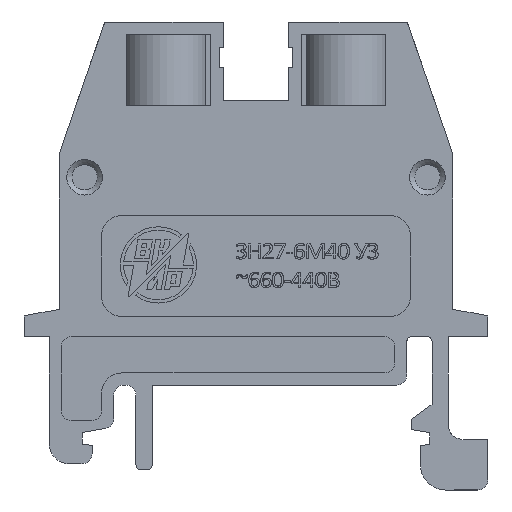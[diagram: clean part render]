
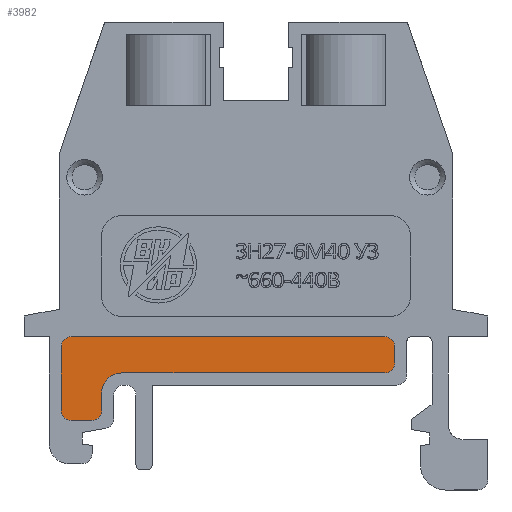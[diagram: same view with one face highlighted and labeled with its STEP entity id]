
A CAD part, left-side view. The second image highlights one B-rep face of the part: STEP entity #3982.
In plain terms, the highlighted planar face has unit normal (-1, 0, 0).
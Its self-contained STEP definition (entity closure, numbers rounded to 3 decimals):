
#3982=ADVANCED_FACE('',(#32790),#32792,.T.);
#32790=FACE_BOUND('',#32791,.T.);
#32791=EDGE_LOOP('',(#56172,#56173,#56174,#56175,#56176,#56177,#56178,#56179,#56180,
#56181,#56182,#56183));
#32792=PLANE('',#32793);
#32793=AXIS2_PLACEMENT_3D('',#32794,#32795,#32796);
#32794=CARTESIAN_POINT('',(3.,0.,0.));
#32795=DIRECTION('',(-1.,0.,0.));
#32796=DIRECTION('',(0.,-1.,0.));
#56172=ORIENTED_EDGE('',*,*,#74784,.T.);
#56173=ORIENTED_EDGE('',*,*,#74806,.T.);
#56174=ORIENTED_EDGE('',*,*,#74804,.T.);
#56175=ORIENTED_EDGE('',*,*,#74802,.T.);
#56176=ORIENTED_EDGE('',*,*,#74800,.T.);
#56177=ORIENTED_EDGE('',*,*,#74798,.T.);
#56178=ORIENTED_EDGE('',*,*,#74796,.T.);
#56179=ORIENTED_EDGE('',*,*,#74794,.T.);
#56180=ORIENTED_EDGE('',*,*,#74792,.T.);
#56181=ORIENTED_EDGE('',*,*,#74790,.T.);
#56182=ORIENTED_EDGE('',*,*,#74788,.T.);
#56183=ORIENTED_EDGE('',*,*,#74786,.T.);
#74784=EDGE_CURVE('',#85778,#85776,#85779,.T.);
#74786=EDGE_CURVE('',#85781,#85778,#85782,.T.);
#74788=EDGE_CURVE('',#85784,#85781,#85785,.T.);
#74790=EDGE_CURVE('',#85787,#85784,#85788,.T.);
#74792=EDGE_CURVE('',#85790,#85787,#85791,.T.);
#74794=EDGE_CURVE('',#85793,#85790,#85794,.T.);
#74796=EDGE_CURVE('',#85796,#85793,#85797,.T.);
#74798=EDGE_CURVE('',#85799,#85796,#85800,.T.);
#74800=EDGE_CURVE('',#85802,#85799,#85803,.T.);
#74802=EDGE_CURVE('',#85805,#85802,#85806,.T.);
#74804=EDGE_CURVE('',#85808,#85805,#85809,.T.);
#74806=EDGE_CURVE('',#85776,#85808,#85811,.T.);
#85776=VERTEX_POINT('',#105012);
#85778=VERTEX_POINT('',#105016);
#85779=LINE('',#105017,#105018);
#85781=VERTEX_POINT('',#105023);
#85782=CIRCLE('',#105024,1.);
#85784=VERTEX_POINT('',#105031);
#85785=LINE('',#105032,#105033);
#85787=VERTEX_POINT('',#105038);
#85788=CIRCLE('',#105039,1.);
#85790=VERTEX_POINT('',#105046);
#85791=LINE('',#105047,#105048);
#85793=VERTEX_POINT('',#105053);
#85794=CIRCLE('',#105054,1.);
#85796=VERTEX_POINT('',#105061);
#85797=LINE('',#105062,#105063);
#85799=VERTEX_POINT('',#105068);
#85800=CIRCLE('',#105069,1.);
#85802=VERTEX_POINT('',#105076);
#85803=LINE('',#105077,#105078);
#85805=VERTEX_POINT('',#105083);
#85806=CIRCLE('',#105084,1.);
#85808=VERTEX_POINT('',#105091);
#85809=LINE('',#105092,#105093);
#85811=CIRCLE('',#105098,2.);
#105012=CARTESIAN_POINT('',(3.,15.3,9.6));
#105016=CARTESIAN_POINT('',(3.,15.3,7.9));
#105017=CARTESIAN_POINT('',(3.,15.3,7.9));
#105018=VECTOR('',#105019,1.);
#105019=DIRECTION('',(0.,0.,1.));
#105023=CARTESIAN_POINT('',(3.,16.3,6.9));
#105024=AXIS2_PLACEMENT_3D('',#105025,#105026,#105027);
#105025=CARTESIAN_POINT('',(3.,16.3,7.9));
#105026=DIRECTION('',(-1.,0.,0.));
#105027=DIRECTION('',(0.,0.,-1.));
#105031=CARTESIAN_POINT('',(3.,18.3,6.9));
#105032=CARTESIAN_POINT('',(3.,18.3,6.9));
#105033=VECTOR('',#105034,1.);
#105034=DIRECTION('',(0.,-1.,0.));
#105038=CARTESIAN_POINT('',(3.,19.3,7.9));
#105039=AXIS2_PLACEMENT_3D('',#105040,#105041,#105042);
#105040=CARTESIAN_POINT('',(3.,18.3,7.9));
#105041=DIRECTION('',(-1.,0.,0.));
#105042=DIRECTION('',(0.,1.,0.));
#105046=CARTESIAN_POINT('',(3.,19.3,14.2));
#105047=CARTESIAN_POINT('',(3.,19.3,14.2));
#105048=VECTOR('',#105049,1.);
#105049=DIRECTION('',(0.,0.,-1.));
#105053=CARTESIAN_POINT('',(3.,18.3,15.2));
#105054=AXIS2_PLACEMENT_3D('',#105055,#105056,#105057);
#105055=CARTESIAN_POINT('',(3.,18.3,14.2));
#105056=DIRECTION('',(-1.,0.,0.));
#105057=DIRECTION('',(0.,0.,1.));
#105061=CARTESIAN_POINT('',(3.,-12.75,15.2));
#105062=CARTESIAN_POINT('',(3.,-12.75,15.2));
#105063=VECTOR('',#105064,1.);
#105064=DIRECTION('',(0.,1.,0.));
#105068=CARTESIAN_POINT('',(3.,-13.75,14.2));
#105069=AXIS2_PLACEMENT_3D('',#105070,#105071,#105072);
#105070=CARTESIAN_POINT('',(3.,-12.75,14.2));
#105071=DIRECTION('',(-1.,0.,0.));
#105072=DIRECTION('',(0.,-1.,0.));
#105076=CARTESIAN_POINT('',(3.,-13.75,12.6));
#105077=CARTESIAN_POINT('',(3.,-13.75,12.6));
#105078=VECTOR('',#105079,1.);
#105079=DIRECTION('',(0.,0.,1.));
#105083=CARTESIAN_POINT('',(3.,-12.75,11.6));
#105084=AXIS2_PLACEMENT_3D('',#105085,#105086,#105087);
#105085=CARTESIAN_POINT('',(3.,-12.75,12.6));
#105086=DIRECTION('',(-1.,0.,0.));
#105087=DIRECTION('',(0.,0.,-1.));
#105091=CARTESIAN_POINT('',(3.,13.3,11.6));
#105092=CARTESIAN_POINT('',(3.,13.3,11.6));
#105093=VECTOR('',#105094,1.);
#105094=DIRECTION('',(0.,-1.,0.));
#105098=AXIS2_PLACEMENT_3D('',#105099,#105100,#105101);
#105099=CARTESIAN_POINT('',(3.,13.3,9.6));
#105100=DIRECTION('',(1.,0.,0.));
#105101=DIRECTION('',(0.,1.,0.));
